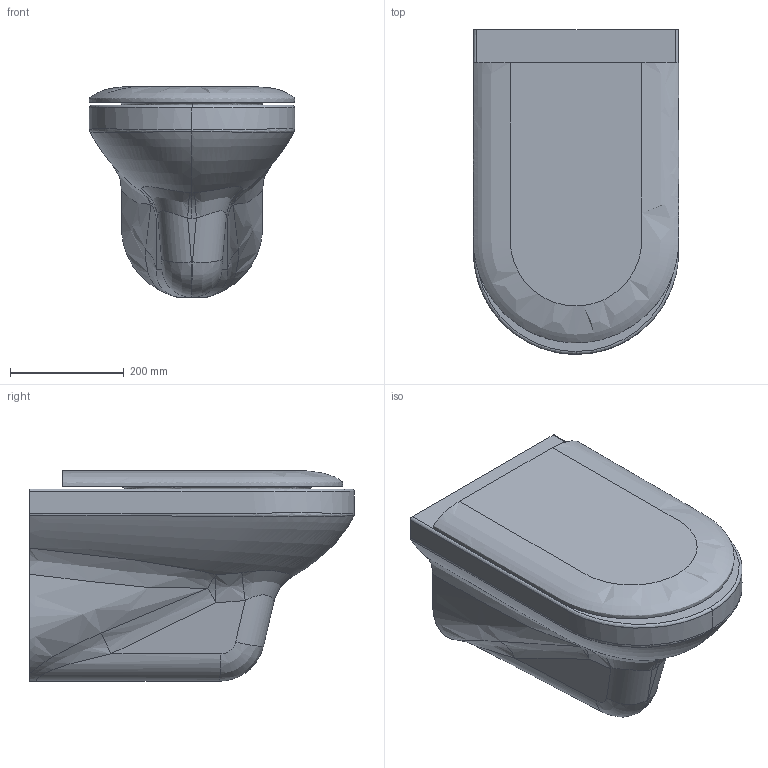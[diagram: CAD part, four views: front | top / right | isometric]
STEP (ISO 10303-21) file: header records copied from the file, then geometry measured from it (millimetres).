
FILE_DESCRIPTION (( 'STEP AP214' ), '1' );
FILE_NAME ('THI156SOSK_THI1800SA.STEP', '2017-12-13T11:32:58', ( '' ), ( '' ), 'SwSTEP 2.0', 'SolidWorks 2018', '' );
FILE_SCHEMA (( 'AUTOMOTIVE_DESIGN' ));
Length unit declared in the file: millimetre
Products named in the file (3): THI1800SA_DIS; THI156_SOSK; THI156SOSK_THI1800SA
Assembly tree (2 placements, depth 2):
  THI156SOSK_THI1800SA
    THI156_SOSK
    THI1800SA_DIS
Bounding box: 360 x 570 x 369.19 mm (x, y, z)
Volume: 23541756.9 mm3; surface area: 1473203 mm2
Topology: 3 solids, 5 shells, 108 faces, 254 edges, 159 vertices
Faces by surface type: bspline 53, plane 29, cylinder 18, torus 3, cone 3, sphere 2
Full cylindrical faces by diameter (mm): 16 x2, 20 x2, 55 x1, 100 x1
Entity records: 42554 total; most frequent: CARTESIAN_POINT 40469, ORIENTED_EDGE 486, DIRECTION 271, EDGE_CURVE 243, VERTEX_POINT 157, B_SPLINE_CURVE_WITH_KNOTS 135, EDGE_LOOP 122, FACE_OUTER_BOUND 115
